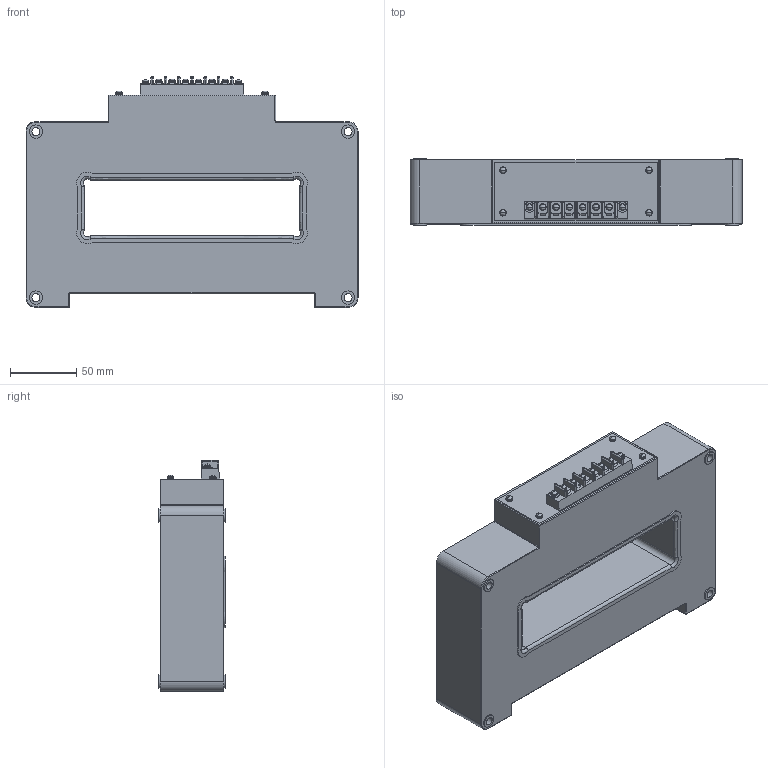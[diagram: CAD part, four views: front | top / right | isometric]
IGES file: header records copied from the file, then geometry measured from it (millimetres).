
Start section: Elysium IGES Interface
Global section: file name: Z:\TaH\HAZ\HAZ XXXX-SB series.igs; native system: CoCreate Modeling 17.00A  17-Jun-2010; preprocessor: CoCreate IGES_3D V2.2; author: Unknown; organization: Unknown; date: 20131101.101006; units: millimetre
Bounding box: 250 x 50 x 174 mm (x, y, z)
Volume: 1347918.8 mm3; surface area: 127690.4 mm2
Topology: 1 solids, 6 shells, 580 faces, 1397 edges, 852 vertices
Faces by surface type: bspline 580
